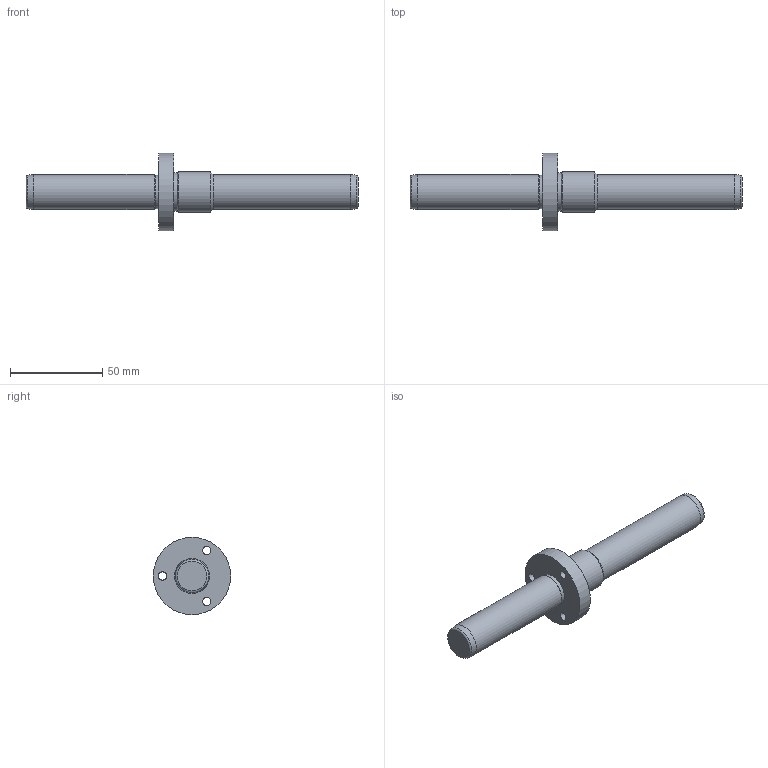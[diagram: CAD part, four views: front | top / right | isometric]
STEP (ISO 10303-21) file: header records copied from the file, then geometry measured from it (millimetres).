
FILE_DESCRIPTION(/* description */ ('Impex Ready, www.impex-ready.pl'),/* implementation_level */ '2;1');
FILE_NAME(/* name */ 'C:\Users\VIKKY\Nextcloud\SM\projekt 10 - części na stronę internetową\Pliki_3D_new\259 CEAS Słup\259_CEAS_STEP\CEAS1980100.ipt.step',/* time_stamp */ '2021-12-06T13:23:49+03:00',/* author */ ('SM'),/* organization */ (''),/* preprocessor_version */ 'ST-DEVELOPER v18.1',/* originating_system */ 'Autodesk Inventor 2021',/* authorisation */ '');
FILE_SCHEMA (('AUTOMOTIVE_DESIGN { 1 0 10303 214 3 1 1 }'));
Length unit declared in the file: millimetre
Products named in the file (1): CEAS1980100
Bounding box: 180 x 42 x 42 mm (x, y, z)
Volume: 60707.3 mm3; surface area: 14592.5 mm2
Topology: 1 solids, 1 shells, 26 faces, 49 edges, 30 vertices
Faces by surface type: cylinder 12, plane 7, cone 5, torus 2
Full cylindrical faces by diameter (mm): 4.5 x3, 8 x3, 18 x1, 19 x2, 21 x1, 22 x1, 42 x1
Entity records: 758 total; most frequent: DIRECTION 135, CARTESIAN_POINT 106, ORIENTED_EDGE 98, AXIS2_PLACEMENT_3D 59, EDGE_CURVE 49, EDGE_LOOP 37, CIRCLE 32, VERTEX_POINT 30
